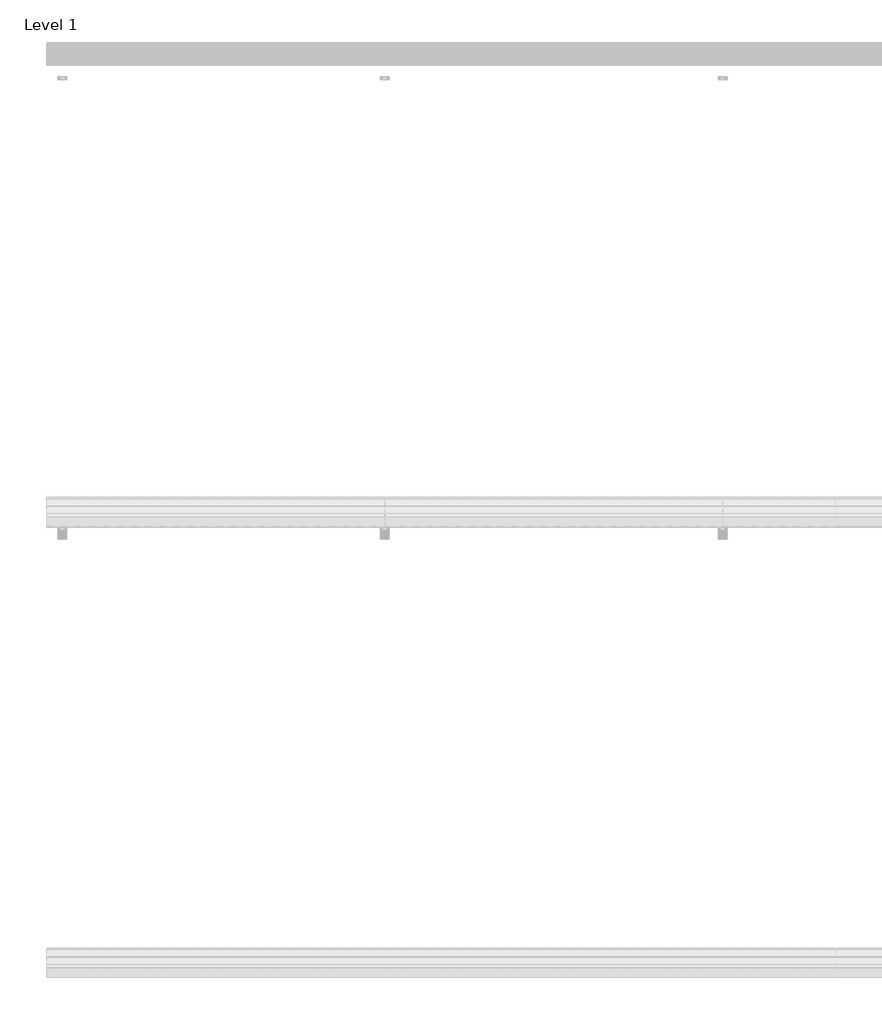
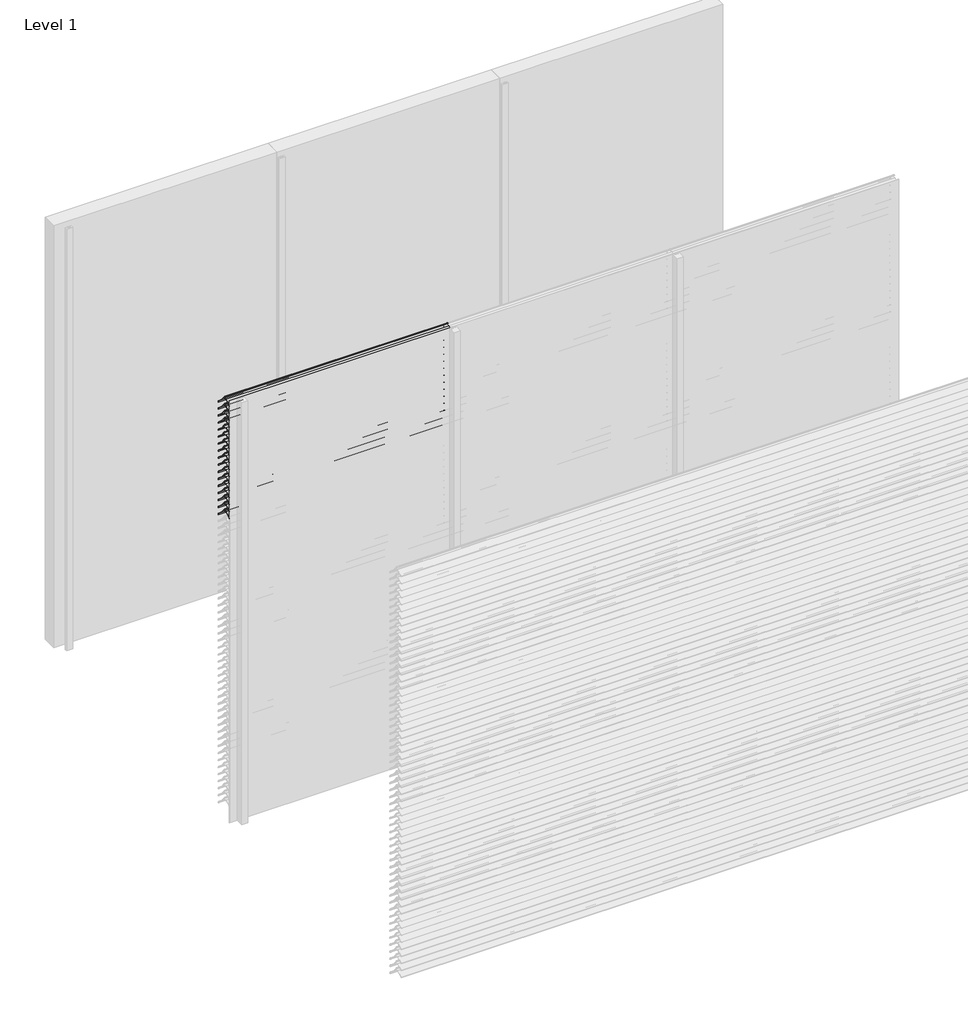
# One storey, part 75 of 173: 17 proxies.
"""IFC4 building model written with IfcOpenShell, lengths in millimetres."""

from ifc_helpers import new_model, si_unit, point, frame, frame_2d, origin, place, context, project, spatial, polyline, circle_curve, trimmed, segment, composite_curve, outline, extrude, element, save

model = new_model("IFC4")

# Units and contexts
model_context = context("Model", 3, world=origin())
ifc_project = project(units=[si_unit("LENGTHUNIT", "METRE", prefix="MILLI")], contexts=[model_context])

# Site, building, storey
site = spatial("IfcSite", under=ifc_project)
building = spatial("IfcBuilding", under=site)
storey = spatial("IfcBuildingStorey", under=building, Name="Level 1", Elevation=0.0)

# Proxies
placement = place(None, origin())
element("IfcBuildingElementProxy", 1, Name="Wall Sweeps", at=placement, inside=storey, context=model_context, shape_type="SweptSolid", body=[
    extrude(outline(composite_curve([segment(polyline([(-29998.0, 2959.1474905), (-29998.0, 2961.6227417)]), True, "CONTINUOUS"), segment(trimmed(circle_curve(frame_2d((-29951.2682172, 2916.2200208)), 65.1557103), [point((-29998.0, 2961.6227417))], [point((-29954.4014323, 2981.3003524))], False, "CARTESIAN"), True, "CONTINUOUS"), segment(polyline([(-29954.4014323, 2981.3003524), (-29934.8315836, 2981.3003524)]), True, "CONTINUOUS"), segment(trimmed(circle_curve(frame_2d((-29732.7329489, 3128.5533172)), 250.0545817), [point((-29934.8315836, 2981.3003524))], [point((-29941.4452143, 2990.8344583))], False, "CARTESIAN"), True, "CONTINUOUS"), segment(trimmed(circle_curve(frame_2d((-29953.2981792, 2985.1737835)), 13.1352966), [point((-29941.4452143, 2990.8344583))], [point((-29953.8171475, 2998.298824))], True, "CARTESIAN"), True, "CONTINUOUS"), segment(polyline([(-29953.8171475, 2998.298824), (-29953.8171475, 3000.0)]), True, "CONTINUOUS"), segment(trimmed(circle_curve(frame_2d((-29953.2981792, 2985.1737835)), 14.8352966), [point((-29953.8171475, 3000.0))], [point((-29939.9637661, 2991.6760487))], False, "CARTESIAN"), True, "CONTINUOUS"), segment(trimmed(circle_curve(frame_2d((-29732.7329489, 3128.5533172)), 248.3545817), [point((-29939.9637661, 2991.6760487))], [point((-29873.8787895, 2924.2059416))], True, "CARTESIAN"), True, "CONTINUOUS"), segment(trimmed(circle_curve(frame_2d((-29883.8147537, 2911.6649442)), 16.0), [point((-29873.8787895, 2924.2059416))], [point((-29867.8648347, 2910.4))], False, "CARTESIAN"), True, "CONTINUOUS"), segment(polyline([(-29867.8648347, 2910.4), (-29869.6712069, 2910.4)]), True, "CONTINUOUS"), segment(trimmed(circle_curve(frame_2d((-29883.8147537, 2911.6649442)), 14.2), [point((-29869.6712069, 2910.4))], [point((-29874.9518628, 2922.7594998))], True, "CARTESIAN"), True, "CONTINUOUS"), segment(trimmed(circle_curve(frame_2d((-29732.7329489, 3128.5533172)), 250.1545817), [point((-29874.9518628, 2922.7594998))], [point((-29933.7064024, 2979.6003524))], False, "CARTESIAN"), True, "CONTINUOUS"), segment(polyline([(-29933.7064024, 2979.6003524), (-29954.3602632, 2979.6003524)]), True, "CONTINUOUS"), segment(trimmed(circle_curve(frame_2d((-29951.2682172, 2916.2200208)), 63.4557103), [point((-29954.3602632, 2979.6003524))], [point((-29998.0, 2959.1474905))], True, "CARTESIAN"), True, "CONTINUOUS")], self_intersect=False)), frame((0.0, 0.0, 0.0), z_axis=(1.0, 0.0, 0.0), x_axis=(0.0, 1.0, 0.0)), (0.0, 0.0, 1.0), 1500.0),
])
element("IfcBuildingElementProxy", 2, Name="Wall Sweeps", at=placement, inside=storey, context=model_context, shape_type="SweptSolid", body=[
    extrude(outline(composite_curve([segment(polyline([(-29998.0, 2909.1474905), (-29998.0, 2911.6227417)]), True, "CONTINUOUS"), segment(trimmed(circle_curve(frame_2d((-29951.2682172, 2866.2200208)), 65.1557103), [point((-29998.0, 2911.6227417))], [point((-29954.4014323, 2931.3003524))], False, "CARTESIAN"), True, "CONTINUOUS"), segment(polyline([(-29954.4014323, 2931.3003524), (-29934.8315836, 2931.3003524)]), True, "CONTINUOUS"), segment(trimmed(circle_curve(frame_2d((-29732.7329489, 3078.5533172)), 250.0545817), [point((-29934.8315836, 2931.3003524))], [point((-29941.4452143, 2940.8344583))], False, "CARTESIAN"), True, "CONTINUOUS"), segment(trimmed(circle_curve(frame_2d((-29953.2981792, 2935.1737835)), 13.1352966), [point((-29941.4452143, 2940.8344583))], [point((-29953.8171475, 2948.298824))], True, "CARTESIAN"), True, "CONTINUOUS"), segment(polyline([(-29953.8171475, 2948.298824), (-29953.8171475, 2950.0)]), True, "CONTINUOUS"), segment(trimmed(circle_curve(frame_2d((-29953.2981792, 2935.1737835)), 14.8352966), [point((-29953.8171475, 2950.0))], [point((-29939.9637661, 2941.6760487))], False, "CARTESIAN"), True, "CONTINUOUS"), segment(trimmed(circle_curve(frame_2d((-29732.7329489, 3078.5533172)), 248.3545817), [point((-29939.9637661, 2941.6760487))], [point((-29873.8787895, 2874.2059416))], True, "CARTESIAN"), True, "CONTINUOUS"), segment(trimmed(circle_curve(frame_2d((-29883.8147537, 2861.6649442)), 16.0), [point((-29873.8787895, 2874.2059416))], [point((-29867.8648347, 2860.4))], False, "CARTESIAN"), True, "CONTINUOUS"), segment(polyline([(-29867.8648347, 2860.4), (-29869.6712069, 2860.4)]), True, "CONTINUOUS"), segment(trimmed(circle_curve(frame_2d((-29883.8147537, 2861.6649442)), 14.2), [point((-29869.6712069, 2860.4))], [point((-29874.9518628, 2872.7594998))], True, "CARTESIAN"), True, "CONTINUOUS"), segment(trimmed(circle_curve(frame_2d((-29732.7329489, 3078.5533172)), 250.1545817), [point((-29874.9518628, 2872.7594998))], [point((-29933.7064024, 2929.6003524))], False, "CARTESIAN"), True, "CONTINUOUS"), segment(polyline([(-29933.7064024, 2929.6003524), (-29954.3602632, 2929.6003524)]), True, "CONTINUOUS"), segment(trimmed(circle_curve(frame_2d((-29951.2682172, 2866.2200208)), 63.4557103), [point((-29954.3602632, 2929.6003524))], [point((-29998.0, 2909.1474905))], True, "CARTESIAN"), True, "CONTINUOUS")], self_intersect=False)), frame((0.0, 0.0, 0.0), z_axis=(1.0, 0.0, 0.0), x_axis=(0.0, 1.0, 0.0)), (0.0, 0.0, 1.0), 1500.0),
])
element("IfcBuildingElementProxy", 3, Name="Wall Sweeps", at=placement, inside=storey, context=model_context, shape_type="SweptSolid", body=[
    extrude(outline(composite_curve([segment(polyline([(-29998.0, 2859.1474905), (-29998.0, 2861.6227417)]), True, "CONTINUOUS"), segment(trimmed(circle_curve(frame_2d((-29951.2682172, 2816.2200208)), 65.1557103), [point((-29998.0, 2861.6227417))], [point((-29954.4014323, 2881.3003524))], False, "CARTESIAN"), True, "CONTINUOUS"), segment(polyline([(-29954.4014323, 2881.3003524), (-29934.8315836, 2881.3003524)]), True, "CONTINUOUS"), segment(trimmed(circle_curve(frame_2d((-29732.7329489, 3028.5533172)), 250.0545817), [point((-29934.8315836, 2881.3003524))], [point((-29941.4452143, 2890.8344583))], False, "CARTESIAN"), True, "CONTINUOUS"), segment(trimmed(circle_curve(frame_2d((-29953.2981792, 2885.1737835)), 13.1352966), [point((-29941.4452143, 2890.8344583))], [point((-29953.8171475, 2898.298824))], True, "CARTESIAN"), True, "CONTINUOUS"), segment(polyline([(-29953.8171475, 2898.298824), (-29953.8171475, 2900.0)]), True, "CONTINUOUS"), segment(trimmed(circle_curve(frame_2d((-29953.2981792, 2885.1737835)), 14.8352966), [point((-29953.8171475, 2900.0))], [point((-29939.9637661, 2891.6760487))], False, "CARTESIAN"), True, "CONTINUOUS"), segment(trimmed(circle_curve(frame_2d((-29732.7329489, 3028.5533172)), 248.3545817), [point((-29939.9637661, 2891.6760487))], [point((-29873.8787895, 2824.2059416))], True, "CARTESIAN"), True, "CONTINUOUS"), segment(trimmed(circle_curve(frame_2d((-29883.8147537, 2811.6649442)), 16.0), [point((-29873.8787895, 2824.2059416))], [point((-29867.8648347, 2810.4))], False, "CARTESIAN"), True, "CONTINUOUS"), segment(polyline([(-29867.8648347, 2810.4), (-29869.6712069, 2810.4)]), True, "CONTINUOUS"), segment(trimmed(circle_curve(frame_2d((-29883.8147537, 2811.6649442)), 14.2), [point((-29869.6712069, 2810.4))], [point((-29874.9518628, 2822.7594998))], True, "CARTESIAN"), True, "CONTINUOUS"), segment(trimmed(circle_curve(frame_2d((-29732.7329489, 3028.5533172)), 250.1545817), [point((-29874.9518628, 2822.7594998))], [point((-29933.7064024, 2879.6003524))], False, "CARTESIAN"), True, "CONTINUOUS"), segment(polyline([(-29933.7064024, 2879.6003524), (-29954.3602632, 2879.6003524)]), True, "CONTINUOUS"), segment(trimmed(circle_curve(frame_2d((-29951.2682172, 2816.2200208)), 63.4557103), [point((-29954.3602632, 2879.6003524))], [point((-29998.0, 2859.1474905))], True, "CARTESIAN"), True, "CONTINUOUS")], self_intersect=False)), frame((0.0, 0.0, 0.0), z_axis=(1.0, 0.0, 0.0), x_axis=(0.0, 1.0, 0.0)), (0.0, 0.0, 1.0), 1500.0),
])
element("IfcBuildingElementProxy", 4, Name="Wall Sweeps", at=placement, inside=storey, context=model_context, shape_type="SweptSolid", body=[
    extrude(outline(composite_curve([segment(polyline([(-29998.0, 2809.1474905), (-29998.0, 2811.6227417)]), True, "CONTINUOUS"), segment(trimmed(circle_curve(frame_2d((-29951.2682172, 2766.2200208)), 65.1557103), [point((-29998.0, 2811.6227417))], [point((-29954.4014323, 2831.3003524))], False, "CARTESIAN"), True, "CONTINUOUS"), segment(polyline([(-29954.4014323, 2831.3003524), (-29934.8315836, 2831.3003524)]), True, "CONTINUOUS"), segment(trimmed(circle_curve(frame_2d((-29732.7329489, 2978.5533172)), 250.0545817), [point((-29934.8315836, 2831.3003524))], [point((-29941.4452143, 2840.8344583))], False, "CARTESIAN"), True, "CONTINUOUS"), segment(trimmed(circle_curve(frame_2d((-29953.2981792, 2835.1737835)), 13.1352966), [point((-29941.4452143, 2840.8344583))], [point((-29953.8171475, 2848.298824))], True, "CARTESIAN"), True, "CONTINUOUS"), segment(polyline([(-29953.8171475, 2848.298824), (-29953.8171475, 2850.0)]), True, "CONTINUOUS"), segment(trimmed(circle_curve(frame_2d((-29953.2981792, 2835.1737835)), 14.8352966), [point((-29953.8171475, 2850.0))], [point((-29939.9637661, 2841.6760487))], False, "CARTESIAN"), True, "CONTINUOUS"), segment(trimmed(circle_curve(frame_2d((-29732.7329489, 2978.5533172)), 248.3545817), [point((-29939.9637661, 2841.6760487))], [point((-29873.8787895, 2774.2059416))], True, "CARTESIAN"), True, "CONTINUOUS"), segment(trimmed(circle_curve(frame_2d((-29883.8147537, 2761.6649442)), 16.0), [point((-29873.8787895, 2774.2059416))], [point((-29867.8648347, 2760.4))], False, "CARTESIAN"), True, "CONTINUOUS"), segment(polyline([(-29867.8648347, 2760.4), (-29869.6712069, 2760.4)]), True, "CONTINUOUS"), segment(trimmed(circle_curve(frame_2d((-29883.8147537, 2761.6649442)), 14.2), [point((-29869.6712069, 2760.4))], [point((-29874.9518628, 2772.7594998))], True, "CARTESIAN"), True, "CONTINUOUS"), segment(trimmed(circle_curve(frame_2d((-29732.7329489, 2978.5533172)), 250.1545817), [point((-29874.9518628, 2772.7594998))], [point((-29933.7064024, 2829.6003524))], False, "CARTESIAN"), True, "CONTINUOUS"), segment(polyline([(-29933.7064024, 2829.6003524), (-29954.3602632, 2829.6003524)]), True, "CONTINUOUS"), segment(trimmed(circle_curve(frame_2d((-29951.2682172, 2766.2200208)), 63.4557103), [point((-29954.3602632, 2829.6003524))], [point((-29998.0, 2809.1474905))], True, "CARTESIAN"), True, "CONTINUOUS")], self_intersect=False)), frame((0.0, 0.0, 0.0), z_axis=(1.0, 0.0, 0.0), x_axis=(0.0, 1.0, 0.0)), (0.0, 0.0, 1.0), 1500.0),
])
element("IfcBuildingElementProxy", 5, Name="Wall Sweeps", at=placement, inside=storey, context=model_context, shape_type="SweptSolid", body=[
    extrude(outline(composite_curve([segment(polyline([(-29998.0, 2759.1474905), (-29998.0, 2761.6227417)]), True, "CONTINUOUS"), segment(trimmed(circle_curve(frame_2d((-29951.2682172, 2716.2200208)), 65.1557103), [point((-29998.0, 2761.6227417))], [point((-29954.4014323, 2781.3003524))], False, "CARTESIAN"), True, "CONTINUOUS"), segment(polyline([(-29954.4014323, 2781.3003524), (-29934.8315836, 2781.3003524)]), True, "CONTINUOUS"), segment(trimmed(circle_curve(frame_2d((-29732.7329489, 2928.5533172)), 250.0545817), [point((-29934.8315836, 2781.3003524))], [point((-29941.4452143, 2790.8344583))], False, "CARTESIAN"), True, "CONTINUOUS"), segment(trimmed(circle_curve(frame_2d((-29953.2981792, 2785.1737835)), 13.1352966), [point((-29941.4452143, 2790.8344583))], [point((-29953.8171475, 2798.298824))], True, "CARTESIAN"), True, "CONTINUOUS"), segment(polyline([(-29953.8171475, 2798.298824), (-29953.8171475, 2800.0)]), True, "CONTINUOUS"), segment(trimmed(circle_curve(frame_2d((-29953.2981792, 2785.1737835)), 14.8352966), [point((-29953.8171475, 2800.0))], [point((-29939.9637661, 2791.6760487))], False, "CARTESIAN"), True, "CONTINUOUS"), segment(trimmed(circle_curve(frame_2d((-29732.7329489, 2928.5533172)), 248.3545817), [point((-29939.9637661, 2791.6760487))], [point((-29873.8787895, 2724.2059416))], True, "CARTESIAN"), True, "CONTINUOUS"), segment(trimmed(circle_curve(frame_2d((-29883.8147537, 2711.6649442)), 16.0), [point((-29873.8787895, 2724.2059416))], [point((-29867.8648347, 2710.4))], False, "CARTESIAN"), True, "CONTINUOUS"), segment(polyline([(-29867.8648347, 2710.4), (-29869.6712069, 2710.4)]), True, "CONTINUOUS"), segment(trimmed(circle_curve(frame_2d((-29883.8147537, 2711.6649442)), 14.2), [point((-29869.6712069, 2710.4))], [point((-29874.9518628, 2722.7594998))], True, "CARTESIAN"), True, "CONTINUOUS"), segment(trimmed(circle_curve(frame_2d((-29732.7329489, 2928.5533172)), 250.1545817), [point((-29874.9518628, 2722.7594998))], [point((-29933.7064024, 2779.6003524))], False, "CARTESIAN"), True, "CONTINUOUS"), segment(polyline([(-29933.7064024, 2779.6003524), (-29954.3602632, 2779.6003524)]), True, "CONTINUOUS"), segment(trimmed(circle_curve(frame_2d((-29951.2682172, 2716.2200208)), 63.4557103), [point((-29954.3602632, 2779.6003524))], [point((-29998.0, 2759.1474905))], True, "CARTESIAN"), True, "CONTINUOUS")], self_intersect=False)), frame((0.0, 0.0, 0.0), z_axis=(1.0, 0.0, 0.0), x_axis=(0.0, 1.0, 0.0)), (0.0, 0.0, 1.0), 1500.0),
])
element("IfcBuildingElementProxy", 6, Name="Wall Sweeps", at=placement, inside=storey, context=model_context, shape_type="SweptSolid", body=[
    extrude(outline(composite_curve([segment(polyline([(-29998.0, 2709.1474905), (-29998.0, 2711.6227417)]), True, "CONTINUOUS"), segment(trimmed(circle_curve(frame_2d((-29951.2682172, 2666.2200208)), 65.1557103), [point((-29998.0, 2711.6227417))], [point((-29954.4014323, 2731.3003524))], False, "CARTESIAN"), True, "CONTINUOUS"), segment(polyline([(-29954.4014323, 2731.3003524), (-29934.8315836, 2731.3003524)]), True, "CONTINUOUS"), segment(trimmed(circle_curve(frame_2d((-29732.7329489, 2878.5533172)), 250.0545817), [point((-29934.8315836, 2731.3003524))], [point((-29941.4452143, 2740.8344583))], False, "CARTESIAN"), True, "CONTINUOUS"), segment(trimmed(circle_curve(frame_2d((-29953.2981792, 2735.1737835)), 13.1352966), [point((-29941.4452143, 2740.8344583))], [point((-29953.8171475, 2748.298824))], True, "CARTESIAN"), True, "CONTINUOUS"), segment(polyline([(-29953.8171475, 2748.298824), (-29953.8171475, 2750.0)]), True, "CONTINUOUS"), segment(trimmed(circle_curve(frame_2d((-29953.2981792, 2735.1737835)), 14.8352966), [point((-29953.8171475, 2750.0))], [point((-29939.9637661, 2741.6760487))], False, "CARTESIAN"), True, "CONTINUOUS"), segment(trimmed(circle_curve(frame_2d((-29732.7329489, 2878.5533172)), 248.3545817), [point((-29939.9637661, 2741.6760487))], [point((-29873.8787895, 2674.2059416))], True, "CARTESIAN"), True, "CONTINUOUS"), segment(trimmed(circle_curve(frame_2d((-29883.8147537, 2661.6649442)), 16.0), [point((-29873.8787895, 2674.2059416))], [point((-29867.8648347, 2660.4))], False, "CARTESIAN"), True, "CONTINUOUS"), segment(polyline([(-29867.8648347, 2660.4), (-29869.6712069, 2660.4)]), True, "CONTINUOUS"), segment(trimmed(circle_curve(frame_2d((-29883.8147537, 2661.6649442)), 14.2), [point((-29869.6712069, 2660.4))], [point((-29874.9518628, 2672.7594998))], True, "CARTESIAN"), True, "CONTINUOUS"), segment(trimmed(circle_curve(frame_2d((-29732.7329489, 2878.5533172)), 250.1545817), [point((-29874.9518628, 2672.7594998))], [point((-29933.7064024, 2729.6003524))], False, "CARTESIAN"), True, "CONTINUOUS"), segment(polyline([(-29933.7064024, 2729.6003524), (-29954.3602632, 2729.6003524)]), True, "CONTINUOUS"), segment(trimmed(circle_curve(frame_2d((-29951.2682172, 2666.2200208)), 63.4557103), [point((-29954.3602632, 2729.6003524))], [point((-29998.0, 2709.1474905))], True, "CARTESIAN"), True, "CONTINUOUS")], self_intersect=False)), frame((0.0, 0.0, 0.0), z_axis=(1.0, 0.0, 0.0), x_axis=(0.0, 1.0, 0.0)), (0.0, 0.0, 1.0), 1500.0),
])
element("IfcBuildingElementProxy", 7, Name="Wall Sweeps", at=placement, inside=storey, context=model_context, shape_type="SweptSolid", body=[
    extrude(outline(composite_curve([segment(polyline([(-29998.0, 2659.1474905), (-29998.0, 2661.6227417)]), True, "CONTINUOUS"), segment(trimmed(circle_curve(frame_2d((-29951.2682172, 2616.2200208)), 65.1557103), [point((-29998.0, 2661.6227417))], [point((-29954.4014323, 2681.3003524))], False, "CARTESIAN"), True, "CONTINUOUS"), segment(polyline([(-29954.4014323, 2681.3003524), (-29934.8315836, 2681.3003524)]), True, "CONTINUOUS"), segment(trimmed(circle_curve(frame_2d((-29732.7329489, 2828.5533172)), 250.0545817), [point((-29934.8315836, 2681.3003524))], [point((-29941.4452143, 2690.8344583))], False, "CARTESIAN"), True, "CONTINUOUS"), segment(trimmed(circle_curve(frame_2d((-29953.2981792, 2685.1737835)), 13.1352966), [point((-29941.4452143, 2690.8344583))], [point((-29953.8171475, 2698.298824))], True, "CARTESIAN"), True, "CONTINUOUS"), segment(polyline([(-29953.8171475, 2698.298824), (-29953.8171475, 2700.0)]), True, "CONTINUOUS"), segment(trimmed(circle_curve(frame_2d((-29953.2981792, 2685.1737835)), 14.8352966), [point((-29953.8171475, 2700.0))], [point((-29939.9637661, 2691.6760487))], False, "CARTESIAN"), True, "CONTINUOUS"), segment(trimmed(circle_curve(frame_2d((-29732.7329489, 2828.5533172)), 248.3545817), [point((-29939.9637661, 2691.6760487))], [point((-29873.8787895, 2624.2059416))], True, "CARTESIAN"), True, "CONTINUOUS"), segment(trimmed(circle_curve(frame_2d((-29883.8147537, 2611.6649442)), 16.0), [point((-29873.8787895, 2624.2059416))], [point((-29867.8648347, 2610.4))], False, "CARTESIAN"), True, "CONTINUOUS"), segment(polyline([(-29867.8648347, 2610.4), (-29869.6712069, 2610.4)]), True, "CONTINUOUS"), segment(trimmed(circle_curve(frame_2d((-29883.8147537, 2611.6649442)), 14.2), [point((-29869.6712069, 2610.4))], [point((-29874.9518628, 2622.7594998))], True, "CARTESIAN"), True, "CONTINUOUS"), segment(trimmed(circle_curve(frame_2d((-29732.7329489, 2828.5533172)), 250.1545817), [point((-29874.9518628, 2622.7594998))], [point((-29933.7064024, 2679.6003524))], False, "CARTESIAN"), True, "CONTINUOUS"), segment(polyline([(-29933.7064024, 2679.6003524), (-29954.3602632, 2679.6003524)]), True, "CONTINUOUS"), segment(trimmed(circle_curve(frame_2d((-29951.2682172, 2616.2200208)), 63.4557103), [point((-29954.3602632, 2679.6003524))], [point((-29998.0, 2659.1474905))], True, "CARTESIAN"), True, "CONTINUOUS")], self_intersect=False)), frame((0.0, 0.0, 0.0), z_axis=(1.0, 0.0, 0.0), x_axis=(0.0, 1.0, 0.0)), (0.0, 0.0, 1.0), 1500.0),
])
element("IfcBuildingElementProxy", 8, Name="Wall Sweeps", at=placement, inside=storey, context=model_context, shape_type="SweptSolid", body=[
    extrude(outline(composite_curve([segment(polyline([(-29998.0, 2609.1474905), (-29998.0, 2611.6227417)]), True, "CONTINUOUS"), segment(trimmed(circle_curve(frame_2d((-29951.2682172, 2566.2200208)), 65.1557103), [point((-29998.0, 2611.6227417))], [point((-29954.4014323, 2631.3003524))], False, "CARTESIAN"), True, "CONTINUOUS"), segment(polyline([(-29954.4014323, 2631.3003524), (-29934.8315836, 2631.3003524)]), True, "CONTINUOUS"), segment(trimmed(circle_curve(frame_2d((-29732.7329489, 2778.5533172)), 250.0545817), [point((-29934.8315836, 2631.3003524))], [point((-29941.4452143, 2640.8344583))], False, "CARTESIAN"), True, "CONTINUOUS"), segment(trimmed(circle_curve(frame_2d((-29953.2981792, 2635.1737835)), 13.1352966), [point((-29941.4452143, 2640.8344583))], [point((-29953.8171475, 2648.298824))], True, "CARTESIAN"), True, "CONTINUOUS"), segment(polyline([(-29953.8171475, 2648.298824), (-29953.8171475, 2650.0)]), True, "CONTINUOUS"), segment(trimmed(circle_curve(frame_2d((-29953.2981792, 2635.1737835)), 14.8352966), [point((-29953.8171475, 2650.0))], [point((-29939.9637661, 2641.6760487))], False, "CARTESIAN"), True, "CONTINUOUS"), segment(trimmed(circle_curve(frame_2d((-29732.7329489, 2778.5533172)), 248.3545817), [point((-29939.9637661, 2641.6760487))], [point((-29873.8787895, 2574.2059416))], True, "CARTESIAN"), True, "CONTINUOUS"), segment(trimmed(circle_curve(frame_2d((-29883.8147537, 2561.6649442)), 16.0), [point((-29873.8787895, 2574.2059416))], [point((-29867.8648347, 2560.4))], False, "CARTESIAN"), True, "CONTINUOUS"), segment(polyline([(-29867.8648347, 2560.4), (-29869.6712069, 2560.4)]), True, "CONTINUOUS"), segment(trimmed(circle_curve(frame_2d((-29883.8147537, 2561.6649442)), 14.2), [point((-29869.6712069, 2560.4))], [point((-29874.9518628, 2572.7594998))], True, "CARTESIAN"), True, "CONTINUOUS"), segment(trimmed(circle_curve(frame_2d((-29732.7329489, 2778.5533172)), 250.1545817), [point((-29874.9518628, 2572.7594998))], [point((-29933.7064024, 2629.6003524))], False, "CARTESIAN"), True, "CONTINUOUS"), segment(polyline([(-29933.7064024, 2629.6003524), (-29954.3602632, 2629.6003524)]), True, "CONTINUOUS"), segment(trimmed(circle_curve(frame_2d((-29951.2682172, 2566.2200208)), 63.4557103), [point((-29954.3602632, 2629.6003524))], [point((-29998.0, 2609.1474905))], True, "CARTESIAN"), True, "CONTINUOUS")], self_intersect=False)), frame((0.0, 0.0, 0.0), z_axis=(1.0, 0.0, 0.0), x_axis=(0.0, 1.0, 0.0)), (0.0, 0.0, 1.0), 1500.0),
])
element("IfcBuildingElementProxy", 9, Name="Wall Sweeps", at=placement, inside=storey, context=model_context, shape_type="SweptSolid", body=[
    extrude(outline(composite_curve([segment(polyline([(-29998.0, 2559.1474905), (-29998.0, 2561.6227417)]), True, "CONTINUOUS"), segment(trimmed(circle_curve(frame_2d((-29951.2682172, 2516.2200208)), 65.1557103), [point((-29998.0, 2561.6227417))], [point((-29954.4014323, 2581.3003524))], False, "CARTESIAN"), True, "CONTINUOUS"), segment(polyline([(-29954.4014323, 2581.3003524), (-29934.8315836, 2581.3003524)]), True, "CONTINUOUS"), segment(trimmed(circle_curve(frame_2d((-29732.7329489, 2728.5533172)), 250.0545817), [point((-29934.8315836, 2581.3003524))], [point((-29941.4452143, 2590.8344583))], False, "CARTESIAN"), True, "CONTINUOUS"), segment(trimmed(circle_curve(frame_2d((-29953.2981792, 2585.1737835)), 13.1352966), [point((-29941.4452143, 2590.8344583))], [point((-29953.8171475, 2598.298824))], True, "CARTESIAN"), True, "CONTINUOUS"), segment(polyline([(-29953.8171475, 2598.298824), (-29953.8171475, 2600.0)]), True, "CONTINUOUS"), segment(trimmed(circle_curve(frame_2d((-29953.2981792, 2585.1737835)), 14.8352966), [point((-29953.8171475, 2600.0))], [point((-29939.9637661, 2591.6760487))], False, "CARTESIAN"), True, "CONTINUOUS"), segment(trimmed(circle_curve(frame_2d((-29732.7329489, 2728.5533172)), 248.3545817), [point((-29939.9637661, 2591.6760487))], [point((-29873.8787895, 2524.2059416))], True, "CARTESIAN"), True, "CONTINUOUS"), segment(trimmed(circle_curve(frame_2d((-29883.8147537, 2511.6649442)), 16.0), [point((-29873.8787895, 2524.2059416))], [point((-29867.8648347, 2510.4))], False, "CARTESIAN"), True, "CONTINUOUS"), segment(polyline([(-29867.8648347, 2510.4), (-29869.6712069, 2510.4)]), True, "CONTINUOUS"), segment(trimmed(circle_curve(frame_2d((-29883.8147537, 2511.6649442)), 14.2), [point((-29869.6712069, 2510.4))], [point((-29874.9518628, 2522.7594998))], True, "CARTESIAN"), True, "CONTINUOUS"), segment(trimmed(circle_curve(frame_2d((-29732.7329489, 2728.5533172)), 250.1545817), [point((-29874.9518628, 2522.7594998))], [point((-29933.7064024, 2579.6003524))], False, "CARTESIAN"), True, "CONTINUOUS"), segment(polyline([(-29933.7064024, 2579.6003524), (-29954.3602632, 2579.6003524)]), True, "CONTINUOUS"), segment(trimmed(circle_curve(frame_2d((-29951.2682172, 2516.2200208)), 63.4557103), [point((-29954.3602632, 2579.6003524))], [point((-29998.0, 2559.1474905))], True, "CARTESIAN"), True, "CONTINUOUS")], self_intersect=False)), frame((0.0, 0.0, 0.0), z_axis=(1.0, 0.0, 0.0), x_axis=(0.0, 1.0, 0.0)), (0.0, 0.0, 1.0), 1500.0),
])
element("IfcBuildingElementProxy", 10, Name="Wall Sweeps", at=placement, inside=storey, context=model_context, shape_type="SweptSolid", body=[
    extrude(outline(composite_curve([segment(polyline([(-29998.0, 2509.1474905), (-29998.0, 2511.6227417)]), True, "CONTINUOUS"), segment(trimmed(circle_curve(frame_2d((-29951.2682172, 2466.2200208)), 65.1557103), [point((-29998.0, 2511.6227417))], [point((-29954.4014323, 2531.3003524))], False, "CARTESIAN"), True, "CONTINUOUS"), segment(polyline([(-29954.4014323, 2531.3003524), (-29934.8315836, 2531.3003524)]), True, "CONTINUOUS"), segment(trimmed(circle_curve(frame_2d((-29732.7329489, 2678.5533172)), 250.0545817), [point((-29934.8315836, 2531.3003524))], [point((-29941.4452143, 2540.8344583))], False, "CARTESIAN"), True, "CONTINUOUS"), segment(trimmed(circle_curve(frame_2d((-29953.2981792, 2535.1737835)), 13.1352966), [point((-29941.4452143, 2540.8344583))], [point((-29953.8171475, 2548.298824))], True, "CARTESIAN"), True, "CONTINUOUS"), segment(polyline([(-29953.8171475, 2548.298824), (-29953.8171475, 2550.0)]), True, "CONTINUOUS"), segment(trimmed(circle_curve(frame_2d((-29953.2981792, 2535.1737835)), 14.8352966), [point((-29953.8171475, 2550.0))], [point((-29939.9637661, 2541.6760487))], False, "CARTESIAN"), True, "CONTINUOUS"), segment(trimmed(circle_curve(frame_2d((-29732.7329489, 2678.5533172)), 248.3545817), [point((-29939.9637661, 2541.6760487))], [point((-29873.8787895, 2474.2059416))], True, "CARTESIAN"), True, "CONTINUOUS"), segment(trimmed(circle_curve(frame_2d((-29883.8147537, 2461.6649442)), 16.0), [point((-29873.8787895, 2474.2059416))], [point((-29867.8648347, 2460.4))], False, "CARTESIAN"), True, "CONTINUOUS"), segment(polyline([(-29867.8648347, 2460.4), (-29869.6712069, 2460.4)]), True, "CONTINUOUS"), segment(trimmed(circle_curve(frame_2d((-29883.8147537, 2461.6649442)), 14.2), [point((-29869.6712069, 2460.4))], [point((-29874.9518628, 2472.7594998))], True, "CARTESIAN"), True, "CONTINUOUS"), segment(trimmed(circle_curve(frame_2d((-29732.7329489, 2678.5533172)), 250.1545817), [point((-29874.9518628, 2472.7594998))], [point((-29933.7064024, 2529.6003524))], False, "CARTESIAN"), True, "CONTINUOUS"), segment(polyline([(-29933.7064024, 2529.6003524), (-29954.3602632, 2529.6003524)]), True, "CONTINUOUS"), segment(trimmed(circle_curve(frame_2d((-29951.2682172, 2466.2200208)), 63.4557103), [point((-29954.3602632, 2529.6003524))], [point((-29998.0, 2509.1474905))], True, "CARTESIAN"), True, "CONTINUOUS")], self_intersect=False)), frame((0.0, 0.0, 0.0), z_axis=(1.0, 0.0, 0.0), x_axis=(0.0, 1.0, 0.0)), (0.0, 0.0, 1.0), 1500.0),
])
element("IfcBuildingElementProxy", 11, Name="Wall Sweeps", at=placement, inside=storey, context=model_context, shape_type="SweptSolid", body=[
    extrude(outline(composite_curve([segment(polyline([(-29998.0, 2459.1474905), (-29998.0, 2461.6227417)]), True, "CONTINUOUS"), segment(trimmed(circle_curve(frame_2d((-29951.2682172, 2416.2200208)), 65.1557103), [point((-29998.0, 2461.6227417))], [point((-29954.4014323, 2481.3003524))], False, "CARTESIAN"), True, "CONTINUOUS"), segment(polyline([(-29954.4014323, 2481.3003524), (-29934.8315836, 2481.3003524)]), True, "CONTINUOUS"), segment(trimmed(circle_curve(frame_2d((-29732.7329489, 2628.5533172)), 250.0545817), [point((-29934.8315836, 2481.3003524))], [point((-29941.4452143, 2490.8344583))], False, "CARTESIAN"), True, "CONTINUOUS"), segment(trimmed(circle_curve(frame_2d((-29953.2981792, 2485.1737835)), 13.1352966), [point((-29941.4452143, 2490.8344583))], [point((-29953.8171475, 2498.298824))], True, "CARTESIAN"), True, "CONTINUOUS"), segment(polyline([(-29953.8171475, 2498.298824), (-29953.8171475, 2500.0)]), True, "CONTINUOUS"), segment(trimmed(circle_curve(frame_2d((-29953.2981792, 2485.1737835)), 14.8352966), [point((-29953.8171475, 2500.0))], [point((-29939.9637661, 2491.6760487))], False, "CARTESIAN"), True, "CONTINUOUS"), segment(trimmed(circle_curve(frame_2d((-29732.7329489, 2628.5533172)), 248.3545817), [point((-29939.9637661, 2491.6760487))], [point((-29873.8787895, 2424.2059416))], True, "CARTESIAN"), True, "CONTINUOUS"), segment(trimmed(circle_curve(frame_2d((-29883.8147537, 2411.6649442)), 16.0), [point((-29873.8787895, 2424.2059416))], [point((-29867.8648347, 2410.4))], False, "CARTESIAN"), True, "CONTINUOUS"), segment(polyline([(-29867.8648347, 2410.4), (-29869.6712069, 2410.4)]), True, "CONTINUOUS"), segment(trimmed(circle_curve(frame_2d((-29883.8147537, 2411.6649442)), 14.2), [point((-29869.6712069, 2410.4))], [point((-29874.9518628, 2422.7594998))], True, "CARTESIAN"), True, "CONTINUOUS"), segment(trimmed(circle_curve(frame_2d((-29732.7329489, 2628.5533172)), 250.1545817), [point((-29874.9518628, 2422.7594998))], [point((-29933.7064024, 2479.6003524))], False, "CARTESIAN"), True, "CONTINUOUS"), segment(polyline([(-29933.7064024, 2479.6003524), (-29954.3602632, 2479.6003524)]), True, "CONTINUOUS"), segment(trimmed(circle_curve(frame_2d((-29951.2682172, 2416.2200208)), 63.4557103), [point((-29954.3602632, 2479.6003524))], [point((-29998.0, 2459.1474905))], True, "CARTESIAN"), True, "CONTINUOUS")], self_intersect=False)), frame((0.0, 0.0, 0.0), z_axis=(1.0, 0.0, 0.0), x_axis=(0.0, 1.0, 0.0)), (0.0, 0.0, 1.0), 1500.0),
])
element("IfcBuildingElementProxy", 12, Name="Wall Sweeps", at=placement, inside=storey, context=model_context, shape_type="SweptSolid", body=[
    extrude(outline(composite_curve([segment(polyline([(-29998.0, 2409.1474905), (-29998.0, 2411.6227417)]), True, "CONTINUOUS"), segment(trimmed(circle_curve(frame_2d((-29951.2682172, 2366.2200208)), 65.1557103), [point((-29998.0, 2411.6227417))], [point((-29954.4014323, 2431.3003524))], False, "CARTESIAN"), True, "CONTINUOUS"), segment(polyline([(-29954.4014323, 2431.3003524), (-29934.8315836, 2431.3003524)]), True, "CONTINUOUS"), segment(trimmed(circle_curve(frame_2d((-29732.7329489, 2578.5533172)), 250.0545817), [point((-29934.8315836, 2431.3003524))], [point((-29941.4452143, 2440.8344583))], False, "CARTESIAN"), True, "CONTINUOUS"), segment(trimmed(circle_curve(frame_2d((-29953.2981792, 2435.1737835)), 13.1352966), [point((-29941.4452143, 2440.8344583))], [point((-29953.8171475, 2448.298824))], True, "CARTESIAN"), True, "CONTINUOUS"), segment(polyline([(-29953.8171475, 2448.298824), (-29953.8171475, 2450.0)]), True, "CONTINUOUS"), segment(trimmed(circle_curve(frame_2d((-29953.2981792, 2435.1737835)), 14.8352966), [point((-29953.8171475, 2450.0))], [point((-29939.9637661, 2441.6760487))], False, "CARTESIAN"), True, "CONTINUOUS"), segment(trimmed(circle_curve(frame_2d((-29732.7329489, 2578.5533172)), 248.3545817), [point((-29939.9637661, 2441.6760487))], [point((-29873.8787895, 2374.2059416))], True, "CARTESIAN"), True, "CONTINUOUS"), segment(trimmed(circle_curve(frame_2d((-29883.8147537, 2361.6649442)), 16.0), [point((-29873.8787895, 2374.2059416))], [point((-29867.8648347, 2360.4))], False, "CARTESIAN"), True, "CONTINUOUS"), segment(polyline([(-29867.8648347, 2360.4), (-29869.6712069, 2360.4)]), True, "CONTINUOUS"), segment(trimmed(circle_curve(frame_2d((-29883.8147537, 2361.6649442)), 14.2), [point((-29869.6712069, 2360.4))], [point((-29874.9518628, 2372.7594998))], True, "CARTESIAN"), True, "CONTINUOUS"), segment(trimmed(circle_curve(frame_2d((-29732.7329489, 2578.5533172)), 250.1545817), [point((-29874.9518628, 2372.7594998))], [point((-29933.7064024, 2429.6003524))], False, "CARTESIAN"), True, "CONTINUOUS"), segment(polyline([(-29933.7064024, 2429.6003524), (-29954.3602632, 2429.6003524)]), True, "CONTINUOUS"), segment(trimmed(circle_curve(frame_2d((-29951.2682172, 2366.2200208)), 63.4557103), [point((-29954.3602632, 2429.6003524))], [point((-29998.0, 2409.1474905))], True, "CARTESIAN"), True, "CONTINUOUS")], self_intersect=False)), frame((0.0, 0.0, 0.0), z_axis=(1.0, 0.0, 0.0), x_axis=(0.0, 1.0, 0.0)), (0.0, 0.0, 1.0), 1500.0),
])
element("IfcBuildingElementProxy", 13, Name="Wall Sweeps", at=placement, inside=storey, context=model_context, shape_type="SweptSolid", body=[
    extrude(outline(composite_curve([segment(polyline([(-29998.0, 2359.1474905), (-29998.0, 2361.6227417)]), True, "CONTINUOUS"), segment(trimmed(circle_curve(frame_2d((-29951.2682172, 2316.2200208)), 65.1557103), [point((-29998.0, 2361.6227417))], [point((-29954.4014323, 2381.3003524))], False, "CARTESIAN"), True, "CONTINUOUS"), segment(polyline([(-29954.4014323, 2381.3003524), (-29934.8315836, 2381.3003524)]), True, "CONTINUOUS"), segment(trimmed(circle_curve(frame_2d((-29732.7329489, 2528.5533172)), 250.0545817), [point((-29934.8315836, 2381.3003524))], [point((-29941.4452143, 2390.8344583))], False, "CARTESIAN"), True, "CONTINUOUS"), segment(trimmed(circle_curve(frame_2d((-29953.2981792, 2385.1737835)), 13.1352966), [point((-29941.4452143, 2390.8344583))], [point((-29953.8171475, 2398.298824))], True, "CARTESIAN"), True, "CONTINUOUS"), segment(polyline([(-29953.8171475, 2398.298824), (-29953.8171475, 2400.0)]), True, "CONTINUOUS"), segment(trimmed(circle_curve(frame_2d((-29953.2981792, 2385.1737835)), 14.8352966), [point((-29953.8171475, 2400.0))], [point((-29939.9637661, 2391.6760487))], False, "CARTESIAN"), True, "CONTINUOUS"), segment(trimmed(circle_curve(frame_2d((-29732.7329489, 2528.5533172)), 248.3545817), [point((-29939.9637661, 2391.6760487))], [point((-29873.8787895, 2324.2059416))], True, "CARTESIAN"), True, "CONTINUOUS"), segment(trimmed(circle_curve(frame_2d((-29883.8147537, 2311.6649442)), 16.0), [point((-29873.8787895, 2324.2059416))], [point((-29867.8648347, 2310.4))], False, "CARTESIAN"), True, "CONTINUOUS"), segment(polyline([(-29867.8648347, 2310.4), (-29869.6712069, 2310.4)]), True, "CONTINUOUS"), segment(trimmed(circle_curve(frame_2d((-29883.8147537, 2311.6649442)), 14.2), [point((-29869.6712069, 2310.4))], [point((-29874.9518628, 2322.7594998))], True, "CARTESIAN"), True, "CONTINUOUS"), segment(trimmed(circle_curve(frame_2d((-29732.7329489, 2528.5533172)), 250.1545817), [point((-29874.9518628, 2322.7594998))], [point((-29933.7064024, 2379.6003524))], False, "CARTESIAN"), True, "CONTINUOUS"), segment(polyline([(-29933.7064024, 2379.6003524), (-29954.3602632, 2379.6003524)]), True, "CONTINUOUS"), segment(trimmed(circle_curve(frame_2d((-29951.2682172, 2316.2200208)), 63.4557103), [point((-29954.3602632, 2379.6003524))], [point((-29998.0, 2359.1474905))], True, "CARTESIAN"), True, "CONTINUOUS")], self_intersect=False)), frame((0.0, 0.0, 0.0), z_axis=(1.0, 0.0, 0.0), x_axis=(0.0, 1.0, 0.0)), (0.0, 0.0, 1.0), 1500.0),
])
element("IfcBuildingElementProxy", 14, Name="Wall Sweeps", at=placement, inside=storey, context=model_context, shape_type="SweptSolid", body=[
    extrude(outline(composite_curve([segment(polyline([(-29998.0, 2309.1474905), (-29998.0, 2311.6227417)]), True, "CONTINUOUS"), segment(trimmed(circle_curve(frame_2d((-29951.2682172, 2266.2200208)), 65.1557103), [point((-29998.0, 2311.6227417))], [point((-29954.4014323, 2331.3003524))], False, "CARTESIAN"), True, "CONTINUOUS"), segment(polyline([(-29954.4014323, 2331.3003524), (-29934.8315836, 2331.3003524)]), True, "CONTINUOUS"), segment(trimmed(circle_curve(frame_2d((-29732.7329489, 2478.5533172)), 250.0545817), [point((-29934.8315836, 2331.3003524))], [point((-29941.4452143, 2340.8344583))], False, "CARTESIAN"), True, "CONTINUOUS"), segment(trimmed(circle_curve(frame_2d((-29953.2981792, 2335.1737835)), 13.1352966), [point((-29941.4452143, 2340.8344583))], [point((-29953.8171475, 2348.298824))], True, "CARTESIAN"), True, "CONTINUOUS"), segment(polyline([(-29953.8171475, 2348.298824), (-29953.8171475, 2350.0)]), True, "CONTINUOUS"), segment(trimmed(circle_curve(frame_2d((-29953.2981792, 2335.1737835)), 14.8352966), [point((-29953.8171475, 2350.0))], [point((-29939.9637661, 2341.6760487))], False, "CARTESIAN"), True, "CONTINUOUS"), segment(trimmed(circle_curve(frame_2d((-29732.7329489, 2478.5533172)), 248.3545817), [point((-29939.9637661, 2341.6760487))], [point((-29873.8787895, 2274.2059416))], True, "CARTESIAN"), True, "CONTINUOUS"), segment(trimmed(circle_curve(frame_2d((-29883.8147537, 2261.6649442)), 16.0), [point((-29873.8787895, 2274.2059416))], [point((-29867.8648347, 2260.4))], False, "CARTESIAN"), True, "CONTINUOUS"), segment(polyline([(-29867.8648347, 2260.4), (-29869.6712069, 2260.4)]), True, "CONTINUOUS"), segment(trimmed(circle_curve(frame_2d((-29883.8147537, 2261.6649442)), 14.2), [point((-29869.6712069, 2260.4))], [point((-29874.9518628, 2272.7594998))], True, "CARTESIAN"), True, "CONTINUOUS"), segment(trimmed(circle_curve(frame_2d((-29732.7329489, 2478.5533172)), 250.1545817), [point((-29874.9518628, 2272.7594998))], [point((-29933.7064024, 2329.6003524))], False, "CARTESIAN"), True, "CONTINUOUS"), segment(polyline([(-29933.7064024, 2329.6003524), (-29954.3602632, 2329.6003524)]), True, "CONTINUOUS"), segment(trimmed(circle_curve(frame_2d((-29951.2682172, 2266.2200208)), 63.4557103), [point((-29954.3602632, 2329.6003524))], [point((-29998.0, 2309.1474905))], True, "CARTESIAN"), True, "CONTINUOUS")], self_intersect=False)), frame((0.0, 0.0, 0.0), z_axis=(1.0, 0.0, 0.0), x_axis=(0.0, 1.0, 0.0)), (0.0, 0.0, 1.0), 1500.0),
])
element("IfcBuildingElementProxy", 15, Name="Wall Sweeps", at=placement, inside=storey, context=model_context, shape_type="SweptSolid", body=[
    extrude(outline(composite_curve([segment(polyline([(-29998.0, 2259.1474905), (-29998.0, 2261.6227417)]), True, "CONTINUOUS"), segment(trimmed(circle_curve(frame_2d((-29951.2682172, 2216.2200208)), 65.1557103), [point((-29998.0, 2261.6227417))], [point((-29954.4014323, 2281.3003524))], False, "CARTESIAN"), True, "CONTINUOUS"), segment(polyline([(-29954.4014323, 2281.3003524), (-29934.8315836, 2281.3003524)]), True, "CONTINUOUS"), segment(trimmed(circle_curve(frame_2d((-29732.7329489, 2428.5533172)), 250.0545817), [point((-29934.8315836, 2281.3003524))], [point((-29941.4452143, 2290.8344583))], False, "CARTESIAN"), True, "CONTINUOUS"), segment(trimmed(circle_curve(frame_2d((-29953.2981792, 2285.1737835)), 13.1352966), [point((-29941.4452143, 2290.8344583))], [point((-29953.8171475, 2298.298824))], True, "CARTESIAN"), True, "CONTINUOUS"), segment(polyline([(-29953.8171475, 2298.298824), (-29953.8171475, 2300.0)]), True, "CONTINUOUS"), segment(trimmed(circle_curve(frame_2d((-29953.2981792, 2285.1737835)), 14.8352966), [point((-29953.8171475, 2300.0))], [point((-29939.9637661, 2291.6760487))], False, "CARTESIAN"), True, "CONTINUOUS"), segment(trimmed(circle_curve(frame_2d((-29732.7329489, 2428.5533172)), 248.3545817), [point((-29939.9637661, 2291.6760487))], [point((-29873.8787895, 2224.2059416))], True, "CARTESIAN"), True, "CONTINUOUS"), segment(trimmed(circle_curve(frame_2d((-29883.8147537, 2211.6649442)), 16.0), [point((-29873.8787895, 2224.2059416))], [point((-29867.8648347, 2210.4))], False, "CARTESIAN"), True, "CONTINUOUS"), segment(polyline([(-29867.8648347, 2210.4), (-29869.6712069, 2210.4)]), True, "CONTINUOUS"), segment(trimmed(circle_curve(frame_2d((-29883.8147537, 2211.6649442)), 14.2), [point((-29869.6712069, 2210.4))], [point((-29874.9518628, 2222.7594998))], True, "CARTESIAN"), True, "CONTINUOUS"), segment(trimmed(circle_curve(frame_2d((-29732.7329489, 2428.5533172)), 250.1545817), [point((-29874.9518628, 2222.7594998))], [point((-29933.7064024, 2279.6003524))], False, "CARTESIAN"), True, "CONTINUOUS"), segment(polyline([(-29933.7064024, 2279.6003524), (-29954.3602632, 2279.6003524)]), True, "CONTINUOUS"), segment(trimmed(circle_curve(frame_2d((-29951.2682172, 2216.2200208)), 63.4557103), [point((-29954.3602632, 2279.6003524))], [point((-29998.0, 2259.1474905))], True, "CARTESIAN"), True, "CONTINUOUS")], self_intersect=False)), frame((0.0, 0.0, 0.0), z_axis=(1.0, 0.0, 0.0), x_axis=(0.0, 1.0, 0.0)), (0.0, 0.0, 1.0), 1500.0),
])
element("IfcBuildingElementProxy", 16, Name="Wall Sweeps", at=placement, inside=storey, context=model_context, shape_type="SweptSolid", body=[
    extrude(outline(composite_curve([segment(polyline([(-29998.0, 2209.1474905), (-29998.0, 2211.6227417)]), True, "CONTINUOUS"), segment(trimmed(circle_curve(frame_2d((-29951.2682172, 2166.2200208)), 65.1557103), [point((-29998.0, 2211.6227417))], [point((-29954.4014323, 2231.3003524))], False, "CARTESIAN"), True, "CONTINUOUS"), segment(polyline([(-29954.4014323, 2231.3003524), (-29934.8315836, 2231.3003524)]), True, "CONTINUOUS"), segment(trimmed(circle_curve(frame_2d((-29732.7329489, 2378.5533172)), 250.0545817), [point((-29934.8315836, 2231.3003524))], [point((-29941.4452143, 2240.8344583))], False, "CARTESIAN"), True, "CONTINUOUS"), segment(trimmed(circle_curve(frame_2d((-29953.2981792, 2235.1737835)), 13.1352966), [point((-29941.4452143, 2240.8344583))], [point((-29953.8171475, 2248.298824))], True, "CARTESIAN"), True, "CONTINUOUS"), segment(polyline([(-29953.8171475, 2248.298824), (-29953.8171475, 2250.0)]), True, "CONTINUOUS"), segment(trimmed(circle_curve(frame_2d((-29953.2981792, 2235.1737835)), 14.8352966), [point((-29953.8171475, 2250.0))], [point((-29939.9637661, 2241.6760487))], False, "CARTESIAN"), True, "CONTINUOUS"), segment(trimmed(circle_curve(frame_2d((-29732.7329489, 2378.5533172)), 248.3545817), [point((-29939.9637661, 2241.6760487))], [point((-29873.8787895, 2174.2059416))], True, "CARTESIAN"), True, "CONTINUOUS"), segment(trimmed(circle_curve(frame_2d((-29883.8147537, 2161.6649442)), 16.0), [point((-29873.8787895, 2174.2059416))], [point((-29867.8648347, 2160.4))], False, "CARTESIAN"), True, "CONTINUOUS"), segment(polyline([(-29867.8648347, 2160.4), (-29869.6712069, 2160.4)]), True, "CONTINUOUS"), segment(trimmed(circle_curve(frame_2d((-29883.8147537, 2161.6649442)), 14.2), [point((-29869.6712069, 2160.4))], [point((-29874.9518628, 2172.7594998))], True, "CARTESIAN"), True, "CONTINUOUS"), segment(trimmed(circle_curve(frame_2d((-29732.7329489, 2378.5533172)), 250.1545817), [point((-29874.9518628, 2172.7594998))], [point((-29933.7064024, 2229.6003524))], False, "CARTESIAN"), True, "CONTINUOUS"), segment(polyline([(-29933.7064024, 2229.6003524), (-29954.3602632, 2229.6003524)]), True, "CONTINUOUS"), segment(trimmed(circle_curve(frame_2d((-29951.2682172, 2166.2200208)), 63.4557103), [point((-29954.3602632, 2229.6003524))], [point((-29998.0, 2209.1474905))], True, "CARTESIAN"), True, "CONTINUOUS")], self_intersect=False)), frame((0.0, 0.0, 0.0), z_axis=(1.0, 0.0, 0.0), x_axis=(0.0, 1.0, 0.0)), (0.0, 0.0, 1.0), 1500.0),
])
element("IfcBuildingElementProxy", 17, Name="Wall Sweeps", at=placement, inside=storey, context=model_context, shape_type="SweptSolid", body=[
    extrude(outline(composite_curve([segment(polyline([(-29998.0, 2159.1474905), (-29998.0, 2161.6227417)]), True, "CONTINUOUS"), segment(trimmed(circle_curve(frame_2d((-29951.2682172, 2116.2200208)), 65.1557103), [point((-29998.0, 2161.6227417))], [point((-29954.4014323, 2181.3003524))], False, "CARTESIAN"), True, "CONTINUOUS"), segment(polyline([(-29954.4014323, 2181.3003524), (-29934.8315836, 2181.3003524)]), True, "CONTINUOUS"), segment(trimmed(circle_curve(frame_2d((-29732.7329489, 2328.5533172)), 250.0545817), [point((-29934.8315836, 2181.3003524))], [point((-29941.4452143, 2190.8344583))], False, "CARTESIAN"), True, "CONTINUOUS"), segment(trimmed(circle_curve(frame_2d((-29953.2981792, 2185.1737835)), 13.1352966), [point((-29941.4452143, 2190.8344583))], [point((-29953.8171475, 2198.298824))], True, "CARTESIAN"), True, "CONTINUOUS"), segment(polyline([(-29953.8171475, 2198.298824), (-29953.8171475, 2200.0)]), True, "CONTINUOUS"), segment(trimmed(circle_curve(frame_2d((-29953.2981792, 2185.1737835)), 14.8352966), [point((-29953.8171475, 2200.0))], [point((-29939.9637661, 2191.6760487))], False, "CARTESIAN"), True, "CONTINUOUS"), segment(trimmed(circle_curve(frame_2d((-29732.7329489, 2328.5533172)), 248.3545817), [point((-29939.9637661, 2191.6760487))], [point((-29873.8787895, 2124.2059416))], True, "CARTESIAN"), True, "CONTINUOUS"), segment(trimmed(circle_curve(frame_2d((-29883.8147537, 2111.6649442)), 16.0), [point((-29873.8787895, 2124.2059416))], [point((-29867.8648347, 2110.4))], False, "CARTESIAN"), True, "CONTINUOUS"), segment(polyline([(-29867.8648347, 2110.4), (-29869.6712069, 2110.4)]), True, "CONTINUOUS"), segment(trimmed(circle_curve(frame_2d((-29883.8147537, 2111.6649442)), 14.2), [point((-29869.6712069, 2110.4))], [point((-29874.9518628, 2122.7594998))], True, "CARTESIAN"), True, "CONTINUOUS"), segment(trimmed(circle_curve(frame_2d((-29732.7329489, 2328.5533172)), 250.1545817), [point((-29874.9518628, 2122.7594998))], [point((-29933.7064024, 2179.6003524))], False, "CARTESIAN"), True, "CONTINUOUS"), segment(polyline([(-29933.7064024, 2179.6003524), (-29954.3602632, 2179.6003524)]), True, "CONTINUOUS"), segment(trimmed(circle_curve(frame_2d((-29951.2682172, 2116.2200208)), 63.4557103), [point((-29954.3602632, 2179.6003524))], [point((-29998.0, 2159.1474905))], True, "CARTESIAN"), True, "CONTINUOUS")], self_intersect=False)), frame((0.0, 0.0, 0.0), z_axis=(1.0, 0.0, 0.0), x_axis=(0.0, 1.0, 0.0)), (0.0, 0.0, 1.0), 1500.0),
])

save(model, "model.ifc")
